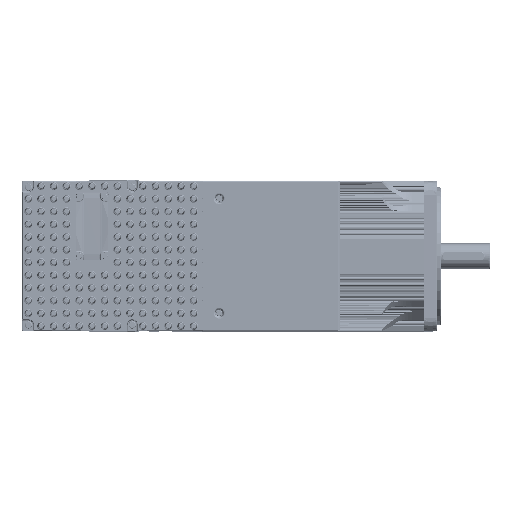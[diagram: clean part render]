
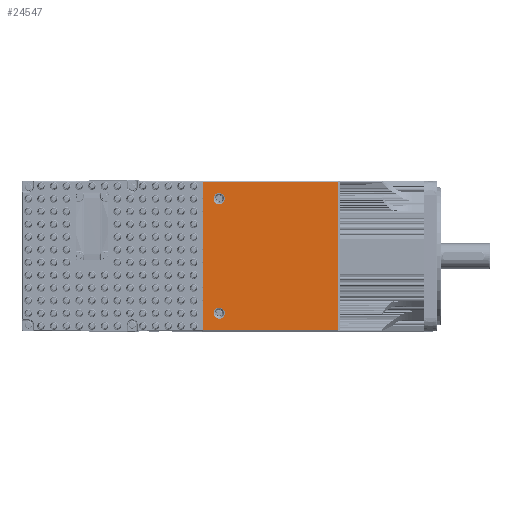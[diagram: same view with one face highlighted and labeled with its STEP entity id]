
A CAD part, top view. The second image highlights one B-rep face of the part: STEP entity #24547.
In plain terms, the highlighted planar face has unit normal (0, 0, 1).
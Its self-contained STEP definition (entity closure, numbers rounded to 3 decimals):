
#24547 = ADVANCED_FACE( 'PartBody', ( #52874, #52875, #52876 ), #52877, .T. );
#52874 = FACE_OUTER_BOUND( '', #130225, .T. );
#52875 = FACE_BOUND( '', #130226, .T. );
#52876 = FACE_BOUND( '', #130227, .T. );
#52877 = PLANE( '', #130228 );
#130225 = EDGE_LOOP( '', ( #215928, #215929, #215930, #215931 ) );
#130226 = EDGE_LOOP( '', ( #215932 ) );
#130227 = EDGE_LOOP( '', ( #215933 ) );
#130228 = AXIS2_PLACEMENT_3D( '', #215934, #215935, #215936 );
#215928 = ORIENTED_EDGE( '', *, *, #270189, .F. );
#215929 = ORIENTED_EDGE( '', *, *, #270190, .F. );
#215930 = ORIENTED_EDGE( '', *, *, #270191, .F. );
#215931 = ORIENTED_EDGE( '', *, *, #270192, .F. );
#215932 = ORIENTED_EDGE( '', *, *, #257699, .F. );
#215933 = ORIENTED_EDGE( '', *, *, #265216, .F. );
#215934 = CARTESIAN_POINT( '', ( 0., 0., 151. ) );
#215935 = DIRECTION( '', ( 0., 0., 1. ) );
#215936 = DIRECTION( '', ( 1., 0., 0. ) );
#257699 = EDGE_CURVE( '', #299346, #299346, #299347, .T. );
#265216 = EDGE_CURVE( '', #310286, #310286, #310287, .T. );
#270189 = EDGE_CURVE( '', #316687, #316688, #316689, .T. );
#270190 = EDGE_CURVE( '', #292145, #316687, #316690, .T. );
#270191 = EDGE_CURVE( '', #305636, #292145, #316691, .T. );
#270192 = EDGE_CURVE( '', #316688, #305636, #316692, .T. );
#292145 = VERTEX_POINT( '', #355172 );
#299346 = VERTEX_POINT( '', #370275 );
#299347 = CIRCLE( '', #370276, 5.288 );
#305636 = VERTEX_POINT( '', #383672 );
#310286 = VERTEX_POINT( '', #393725 );
#310287 = CIRCLE( '', #393726, 5.288 );
#316687 = VERTEX_POINT( '', #407671 );
#316688 = VERTEX_POINT( '', #407672 );
#316689 = LINE( '', #407673, #407674 );
#316690 = LINE( '', #407675, #407676 );
#316691 = LINE( '', #407677, #407678 );
#316692 = LINE( '', #407679, #407680 );
#355172 = CARTESIAN_POINT( '', ( 178.5, -69.5, 151. ) );
#370275 = CARTESIAN_POINT( '', ( 71.288, -54., 151. ) );
#370276 = AXIS2_PLACEMENT_3D( '', #436723, #436724, #436725 );
#383672 = CARTESIAN_POINT( '', ( 178.5, 69.5, 151. ) );
#393725 = CARTESIAN_POINT( '', ( 71.288, 54., 151. ) );
#393726 = AXIS2_PLACEMENT_3D( '', #445214, #445215, #445216 );
#407671 = CARTESIAN_POINT( '', ( 51., -69.5, 151. ) );
#407672 = CARTESIAN_POINT( '', ( 51., 69.5, 151. ) );
#407673 = CARTESIAN_POINT( '', ( 51., 0., 151. ) );
#407674 = VECTOR( '', #450056, 1000. );
#407675 = CARTESIAN_POINT( '', ( 114.75, -69.5, 151. ) );
#407676 = VECTOR( '', #450057, 1000. );
#407677 = CARTESIAN_POINT( '', ( 178.5, 0., 151. ) );
#407678 = VECTOR( '', #450058, 1000. );
#407679 = CARTESIAN_POINT( '', ( 114.75, 69.5, 151. ) );
#407680 = VECTOR( '', #450059, 1000. );
#436723 = CARTESIAN_POINT( '', ( 66., -54., 151. ) );
#436724 = DIRECTION( '', ( 0., 0., 1. ) );
#436725 = DIRECTION( '', ( 1., 0., 0. ) );
#445214 = CARTESIAN_POINT( '', ( 66., 54., 151. ) );
#445215 = DIRECTION( '', ( 0., 0., 1. ) );
#445216 = DIRECTION( '', ( 1., 0., 0. ) );
#450056 = DIRECTION( '', ( 0., 1., 0. ) );
#450057 = DIRECTION( '', ( -1., 0., 0. ) );
#450058 = DIRECTION( '', ( 0., -1., 0. ) );
#450059 = DIRECTION( '', ( 1., 0., 0. ) );
